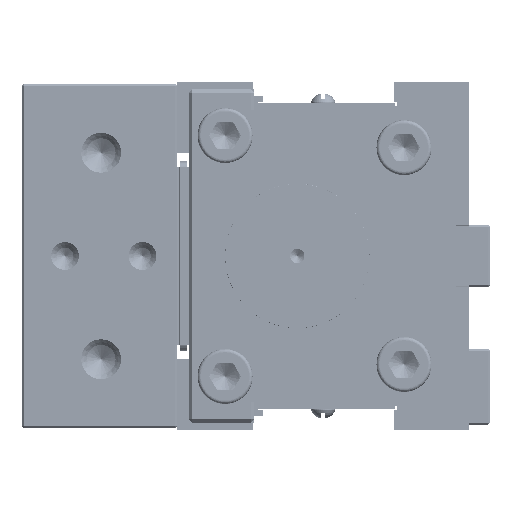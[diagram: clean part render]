
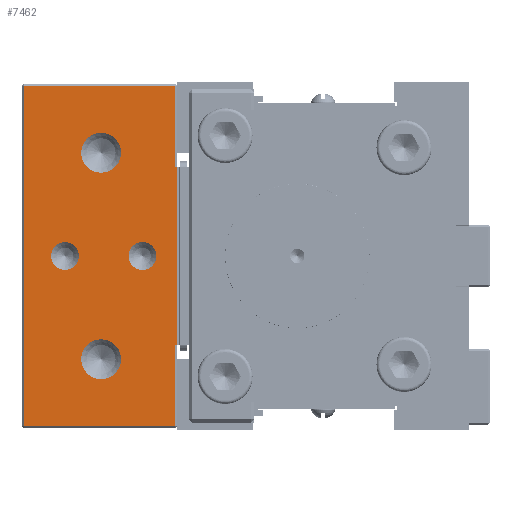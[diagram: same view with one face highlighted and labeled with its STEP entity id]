
A CAD part, left-side view. The second image highlights one B-rep face of the part: STEP entity #7462.
In plain terms, the highlighted planar face has unit normal (-1, 0, 0) as drawn and (0, 1, 0) by its records, which use the part's own axes.
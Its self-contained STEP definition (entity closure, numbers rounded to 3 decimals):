
#7462=ADVANCED_FACE('',(#28324,#28326,#28328,#28330,#28332),#28334,.T.);
#28324=FACE_BOUND('',#28325,.T.);
#28325=EDGE_LOOP('',(#41985,#41986,#41987,#41988,#41989,#41990,#41991,#41992));
#28326=FACE_BOUND('',#28327,.T.);
#28327=EDGE_LOOP('',(#41993));
#28328=FACE_BOUND('',#28329,.T.);
#28329=EDGE_LOOP('',(#41994));
#28330=FACE_BOUND('',#28331,.T.);
#28331=EDGE_LOOP('',(#41995));
#28332=FACE_BOUND('',#28333,.T.);
#28333=EDGE_LOOP('',(#41996));
#28334=PLANE('',#28335);
#28335=AXIS2_PLACEMENT_3D('',#28336,#28337,#28338);
#28336=CARTESIAN_POINT('',(-100.,0.,-45.));
#28337=DIRECTION('',(0.,1.,0.));
#28338=DIRECTION('',(0.,0.,1.));
#41985=ORIENTED_EDGE('',*,*,#51217,.T.);
#41986=ORIENTED_EDGE('',*,*,#51218,.F.);
#41987=ORIENTED_EDGE('',*,*,#51219,.F.);
#41988=ORIENTED_EDGE('',*,*,#51183,.T.);
#41989=ORIENTED_EDGE('',*,*,#51197,.F.);
#41990=ORIENTED_EDGE('',*,*,#51172,.F.);
#41991=ORIENTED_EDGE('',*,*,#51214,.F.);
#41992=ORIENTED_EDGE('',*,*,#51220,.T.);
#41993=ORIENTED_EDGE('',*,*,#51221,.T.);
#41994=ORIENTED_EDGE('',*,*,#51222,.T.);
#41995=ORIENTED_EDGE('',*,*,#51223,.T.);
#41996=ORIENTED_EDGE('',*,*,#51224,.T.);
#51172=EDGE_CURVE('',#59231,#59233,#59234,.T.);
#51183=EDGE_CURVE('',#59253,#59251,#59254,.T.);
#51197=EDGE_CURVE('',#59233,#59251,#59274,.T.);
#51214=EDGE_CURVE('',#59303,#59231,#59305,.T.);
#51217=EDGE_CURVE('',#59309,#59310,#59311,.T.);
#51218=EDGE_CURVE('',#59312,#59310,#59313,.T.);
#51219=EDGE_CURVE('',#59253,#59312,#59314,.T.);
#51220=EDGE_CURVE('',#59303,#59309,#59315,.T.);
#51221=EDGE_CURVE('',#59316,#59316,#59317,.F.);
#51222=EDGE_CURVE('',#59318,#59318,#59319,.F.);
#51223=EDGE_CURVE('',#59320,#59320,#59321,.F.);
#51224=EDGE_CURVE('',#59322,#59322,#59323,.F.);
#59231=VERTEX_POINT('',#183745);
#59233=VERTEX_POINT('',#183749);
#59234=LINE('',#183750,#183751);
#59251=VERTEX_POINT('',#183789);
#59253=VERTEX_POINT('',#183793);
#59254=LINE('',#183794,#183795);
#59274=LINE('',#183845,#183846);
#59303=VERTEX_POINT('',#183910);
#59305=LINE('',#183914,#183915);
#59309=VERTEX_POINT('',#183924);
#59310=VERTEX_POINT('',#183925);
#59311=LINE('',#183926,#183927);
#59312=VERTEX_POINT('',#183929);
#59313=LINE('',#183930,#183931);
#59314=LINE('',#183933,#183934);
#59315=LINE('',#183936,#183937);
#59316=VERTEX_POINT('',#183939);
#59317=CIRCLE('',#183940,4.059);
#59318=VERTEX_POINT('',#183944);
#59319=CIRCLE('',#183945,5.788);
#59320=VERTEX_POINT('',#183949);
#59321=CIRCLE('',#183950,5.788);
#59322=VERTEX_POINT('',#183954);
#59323=CIRCLE('',#183955,4.059);
#183745=CARTESIAN_POINT('',(-75.75,0.,-44.5));
#183749=CARTESIAN_POINT('',(-75.75,0.,-45.1));
#183750=CARTESIAN_POINT('',(-75.75,0.,-44.5));
#183751=VECTOR('',#183752,1.);
#183752=DIRECTION('',(0.,0.,-1.));
#183789=CARTESIAN_POINT('',(-24.25,0.,-45.1));
#183793=CARTESIAN_POINT('',(-24.25,0.,-44.5));
#183794=CARTESIAN_POINT('',(-24.25,0.,-44.5));
#183795=VECTOR('',#183796,1.);
#183796=DIRECTION('',(0.,0.,-1.));
#183845=CARTESIAN_POINT('',(-75.75,0.,-45.1));
#183846=VECTOR('',#183847,1.);
#183847=DIRECTION('',(1.,0.,0.));
#183910=CARTESIAN_POINT('',(-99.5,0.,-44.5));
#183914=CARTESIAN_POINT('',(-99.5,0.,-44.5));
#183915=VECTOR('',#183916,1.);
#183916=DIRECTION('',(1.,0.,0.));
#183924=CARTESIAN_POINT('',(-99.5,0.,-0.5));
#183925=CARTESIAN_POINT('',(-0.5,0.,-0.5));
#183926=CARTESIAN_POINT('',(-99.5,0.,-0.5));
#183927=VECTOR('',#183928,1.);
#183928=DIRECTION('',(1.,0.,0.));
#183929=CARTESIAN_POINT('',(-0.5,0.,-44.5));
#183930=CARTESIAN_POINT('',(-0.5,0.,-44.5));
#183931=VECTOR('',#183932,1.);
#183932=DIRECTION('',(0.,0.,1.));
#183933=CARTESIAN_POINT('',(-24.25,0.,-44.5));
#183934=VECTOR('',#183935,1.);
#183935=DIRECTION('',(1.,0.,0.));
#183936=CARTESIAN_POINT('',(-99.5,0.,-44.5));
#183937=VECTOR('',#183938,1.);
#183938=DIRECTION('',(0.,0.,1.));
#183939=CARTESIAN_POINT('',(-45.941,0.,-35.));
#183940=AXIS2_PLACEMENT_3D('',#183941,#183942,#183943);
#183941=CARTESIAN_POINT('',(-50.,0.,-35.));
#183942=DIRECTION('',(0.,1.,0.));
#183943=DIRECTION('',(1.,0.,0.));
#183944=CARTESIAN_POINT('',(-74.212,0.,-23.));
#183945=AXIS2_PLACEMENT_3D('',#183946,#183947,#183948);
#183946=CARTESIAN_POINT('',(-80.,0.,-23.));
#183947=DIRECTION('',(0.,1.,0.));
#183948=DIRECTION('',(1.,0.,0.));
#183949=CARTESIAN_POINT('',(-14.212,0.,-23.));
#183950=AXIS2_PLACEMENT_3D('',#183951,#183952,#183953);
#183951=CARTESIAN_POINT('',(-20.,0.,-23.));
#183952=DIRECTION('',(0.,1.,0.));
#183953=DIRECTION('',(1.,0.,0.));
#183954=CARTESIAN_POINT('',(-45.941,0.,-12.5));
#183955=AXIS2_PLACEMENT_3D('',#183956,#183957,#183958);
#183956=CARTESIAN_POINT('',(-50.,0.,-12.5));
#183957=DIRECTION('',(0.,1.,0.));
#183958=DIRECTION('',(1.,0.,0.));
